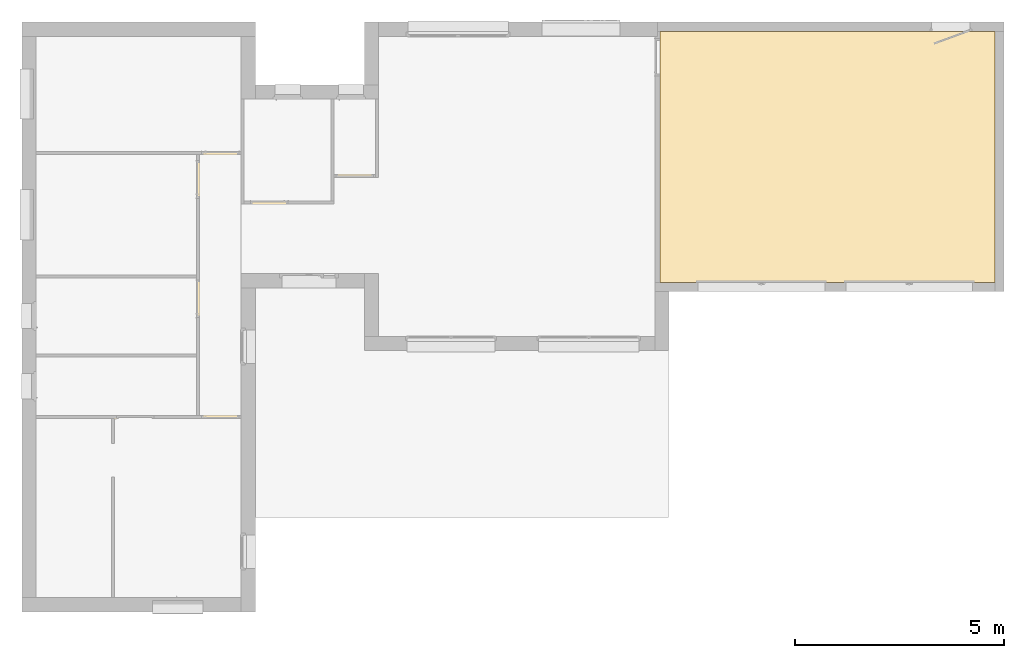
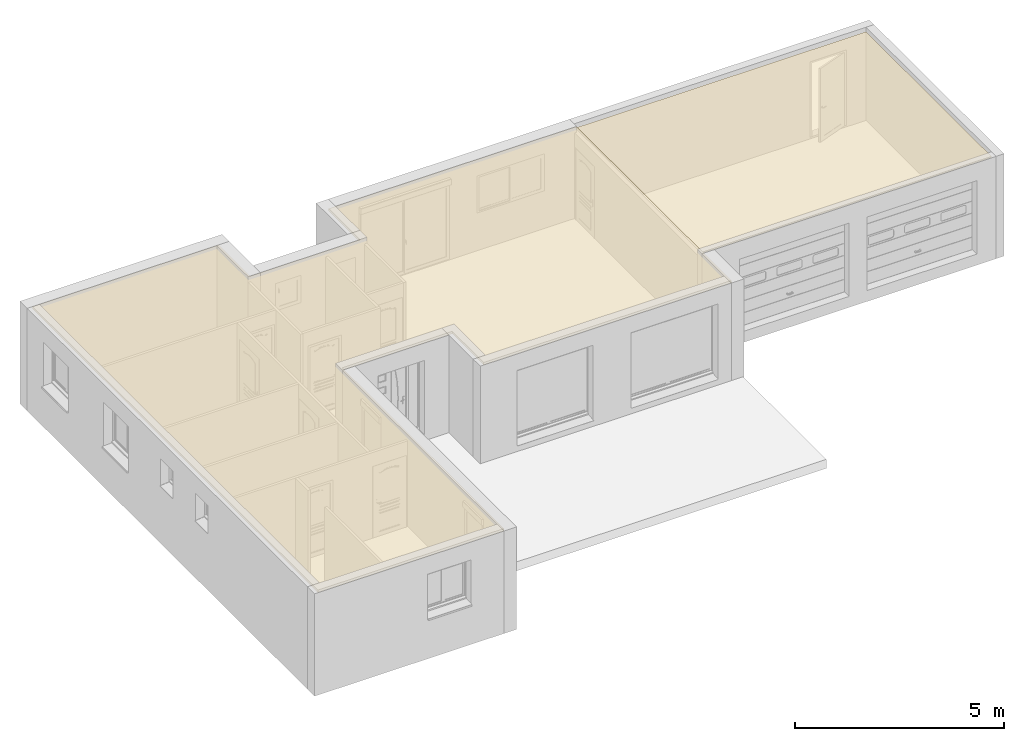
# One storey, part 23 of 23: 2 coverings.
"""IFC2X3 building model written with IfcOpenShell, lengths in metres."""

from ifc_helpers import new_model, entity, si_unit, converted_unit, derived_unit, direction, frame, frame_2d, origin, place, context, subcontext, project, spatial, polyline, rectangle, outline, extrude, material, layer, layer_set, layer_usage, element, save


model = new_model("IFC2X3")

# Units and contexts
model_context = context("Model", 3, precision=1e-05, world=origin(), true_north=direction((6.12303176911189e-17, 1.0)))
body_context = subcontext(model_context, "Body", "Model", "MODEL_VIEW")
ifc_project = project(units=[si_unit("LENGTHUNIT", "METRE"), si_unit("AREAUNIT", "SQUARE_METRE"), si_unit("VOLUMEUNIT", "CUBIC_METRE"), converted_unit("PLANEANGLEUNIT", "DEGREE", entity("IfcRatioMeasure", 0.0174532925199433), si_unit("PLANEANGLEUNIT", "RADIAN"), dimensions=[0, 0, 0, 0, 0, 0, 0]), si_unit("MASSUNIT", "GRAM", prefix="KILO"), derived_unit("MASSDENSITYUNIT", [(si_unit("MASSUNIT", "GRAM", prefix="KILO"), 1), (si_unit("LENGTHUNIT", "METRE"), -3)]), si_unit("TIMEUNIT", "SECOND"), si_unit("FREQUENCYUNIT", "HERTZ"), si_unit("THERMODYNAMICTEMPERATUREUNIT", "DEGREE_CELSIUS"), derived_unit("THERMALTRANSMITTANCEUNIT", [(si_unit("MASSUNIT", "GRAM", prefix="KILO"), 1), (si_unit("THERMODYNAMICTEMPERATUREUNIT", "KELVIN"), -1), (si_unit("TIMEUNIT", "SECOND"), -3)]), derived_unit("VOLUMETRICFLOWRATEUNIT", [(si_unit("LENGTHUNIT", "METRE"), 3), (si_unit("TIMEUNIT", "SECOND"), -1)]), si_unit("ELECTRICCURRENTUNIT", "AMPERE"), si_unit("ELECTRICVOLTAGEUNIT", "VOLT"), si_unit("POWERUNIT", "WATT"), si_unit("FORCEUNIT", "NEWTON", prefix="KILO"), si_unit("ILLUMINANCEUNIT", "LUX"), si_unit("LUMINOUSFLUXUNIT", "LUMEN"), si_unit("LUMINOUSINTENSITYUNIT", "CANDELA"), derived_unit("USERDEFINED", [(si_unit("MASSUNIT", "GRAM", prefix="KILO"), -1), (si_unit("LENGTHUNIT", "METRE"), -2), (si_unit("TIMEUNIT", "SECOND"), 3), (si_unit("LUMINOUSFLUXUNIT", "LUMEN"), 1)]), derived_unit("LINEARVELOCITYUNIT", [(si_unit("LENGTHUNIT", "METRE"), 1), (si_unit("TIMEUNIT", "SECOND"), -1)]), si_unit("PRESSUREUNIT", "PASCAL"), derived_unit("USERDEFINED", [(si_unit("LENGTHUNIT", "METRE"), -2), (si_unit("MASSUNIT", "GRAM", prefix="KILO"), 1), (si_unit("TIMEUNIT", "SECOND"), -2)])], contexts=[model_context])

# Site, building, storey
site_placement = place(None, origin())
site = spatial("IfcSite", under=ifc_project, at=site_placement, Name="Default", CompositionType="ELEMENT")
building_placement = place(site_placement, origin())
building = spatial("IfcBuilding", under=site, at=building_placement, CompositionType="ELEMENT")
storey_placement = place(building_placement, origin())
storey = spatial("IfcBuildingStorey", under=building, at=storey_placement, Name="2 - Rez de Chaussée", CompositionType="ELEMENT", Elevation=-1.94916083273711e-14)

# Coverings
ifc_material_1 = material(Name="45_isolatie_minerale-wol_40mm")
ifc_layer_1 = layer(ifc_material_1, 0.04)
ifc_material_2 = material(Name="45_metaal_profiel_Siniat_Veerrail")
ifc_layer_2 = layer(ifc_material_2, 0.016)
ifc_material_3 = material(Name="45_gipskartonplaat_Siniat_Standaard_A_12.5mm")
ifc_layer_3 = layer(ifc_material_3, 0.0125)
ifc_layer_set_1 = layer_set([ifc_layer_1, ifc_layer_2, ifc_layer_3], Name="Plafond composé:45_CEI_plafond_Siniat_geluidsisolatieverbeterend_plafond_zonder_naden")
ifc_layer_usage_1 = layer_usage(ifc_layer_set_1, "AXIS3", "POSITIVE", 0.0)
covering_1_placement = place(storey_placement, origin())
element("IfcCovering", 1, at=covering_1_placement, inside=storey, material=ifc_layer_usage_1, Name="Plafond composé:45_CEI_plafond_Siniat_geluidsisolatieverbeterend_plafond_zonder_naden", ObjectType="Plafond composé:45_CEI_plafond_Siniat_geluidsisolatieverbeterend_plafond_zonder_naden", context=body_context, shape_type="SweptSolid", body=[
    extrude(outline(polyline([(1.80333333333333, -4.74500000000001), (6.9433333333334, -4.74500000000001), (6.94333333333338, 8.90500000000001), (1.80333333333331, 8.90500000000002), (1.80333333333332, 1.16500000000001), (-1.23666666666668, 1.16500000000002), (-1.23666666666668, 2.66499999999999), (-8.07666666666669, 2.66499999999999), (-8.07666666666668, -4.745), (-1.23666666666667, -4.745), (-1.23666666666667, -3.24500000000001), (1.80333333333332, -3.24500000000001), (1.80333333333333, -4.74500000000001)])), frame((-2.77288913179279, 1.67305500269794, 2.5), z_axis=(0.0, 0.0, 1.0), x_axis=(-1.0, 0.0, 0.0)), (0.0, 0.0, 1.0), 0.0685000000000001),
])
ifc_material_4 = material(Name="45_metaal_profiel_Siniat_CD60")
ifc_layer_4 = layer(ifc_material_4, 0.027)
ifc_material_5 = material(Name="45_gipskartonplaat_Siniat_Standaard_A_9.5mm")
ifc_layer_5 = layer(ifc_material_5, 0.0095)
ifc_layer_set_2 = layer_set([ifc_layer_4, ifc_layer_5], Name="Plafond composé:45_CEI_plafond_Siniat_verlaagd_plafond_direct_bevestigd_tegen_houten_balklaag_plaatnaden")
ifc_layer_usage_2 = layer_usage(ifc_layer_set_2, "AXIS3", "POSITIVE", 0.0)
covering_2_placement = place(storey_placement, origin())
element("IfcCovering", 2, at=covering_2_placement, inside=storey, material=ifc_layer_usage_2, Name="Plafond composé:45_CEI_plafond_Siniat_verlaagd_plafond_direct_bevestigd_tegen_houten_balklaag_plaatnaden", ObjectType="Plafond composé:45_CEI_plafond_Siniat_verlaagd_plafond_direct_bevestigd_tegen_houten_balklaag_plaatnaden", context=body_context, shape_type="SweptSolid", body=[
    extrude(rectangle(XDim=7.99999999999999, YDim=5.99999999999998, at=frame_2d((2.22044604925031e-15, 5.99520433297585e-15), x_axis=(1.0, 0.0))), frame((9.30377753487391, 3.41805500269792, 2.5), z_axis=(0.0, 0.0, 1.0), x_axis=(-1.0, 0.0, 0.0)), (0.0, 0.0, 1.0), 0.0364999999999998),
])

save(model, "model.ifc")
